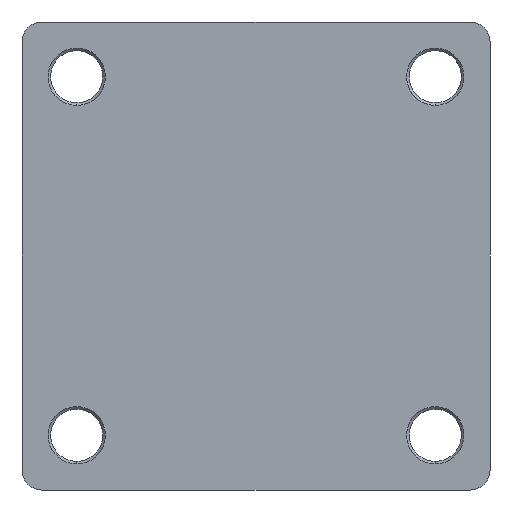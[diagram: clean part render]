
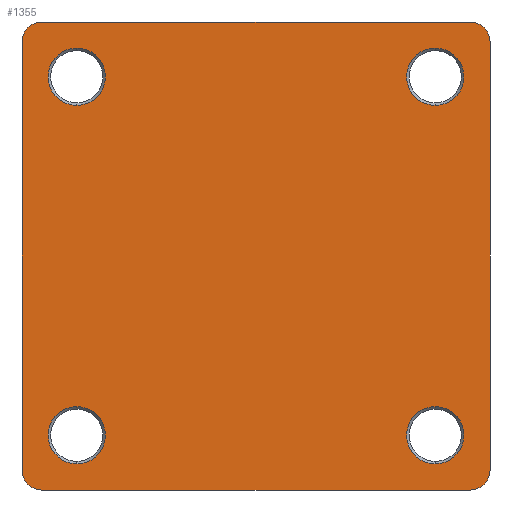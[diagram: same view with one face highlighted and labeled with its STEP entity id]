
A CAD part, left-side view. The second image highlights one B-rep face of the part: STEP entity #1355.
In plain terms, the highlighted planar face has unit normal (-1, 0, 0).
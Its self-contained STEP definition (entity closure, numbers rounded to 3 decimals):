
#10 = CIRCLE ( 'NONE', #1727, 5.75 ) ;
#28 = VERTEX_POINT ( 'NONE', #756 ) ;
#71 = DIRECTION ( 'NONE',  ( -1., 0., 0. ) ) ;
#88 = ORIENTED_EDGE ( 'NONE', *, *, #1482, .F. ) ;
#89 = EDGE_LOOP ( 'NONE', ( #833, #911 ) ) ;
#92 = CARTESIAN_POINT ( 'NONE',  ( -14., 47., 43. ) ) ;
#95 = AXIS2_PLACEMENT_3D ( 'NONE', #1349, #71, #219 ) ;
#97 = ORIENTED_EDGE ( 'NONE', *, *, #1323, .F. ) ;
#112 = DIRECTION ( 'NONE',  ( -1., 0., 0. ) ) ;
#121 = VECTOR ( 'NONE', #200, 1000. ) ;
#170 = EDGE_CURVE ( 'NONE', #953, #1668, #563, .T. ) ;
#185 = CARTESIAN_POINT ( 'NONE',  ( -14., -43., 43. ) ) ;
#200 = DIRECTION ( 'NONE',  ( 0., 1., 0. ) ) ;
#219 = DIRECTION ( 'NONE',  ( 0., 0., 1. ) ) ;
#230 = DIRECTION ( 'NONE',  ( -1., 0., 0. ) ) ;
#250 = ORIENTED_EDGE ( 'NONE', *, *, #724, .F. ) ;
#256 = ORIENTED_EDGE ( 'NONE', *, *, #1278, .F. ) ;
#259 = DIRECTION ( 'NONE',  ( 0., 0., 1. ) ) ;
#271 = AXIS2_PLACEMENT_3D ( 'NONE', #989, #112, #682 ) ;
#295 = CIRCLE ( 'NONE', #1678, 5.75 ) ;
#299 = CARTESIAN_POINT ( 'NONE',  ( -14., 43., -47. ) ) ;
#304 = CARTESIAN_POINT ( 'NONE',  ( -14., 43., 47. ) ) ;
#315 = CARTESIAN_POINT ( 'NONE',  ( -14., 43., 43. ) ) ;
#326 = CARTESIAN_POINT ( 'NONE',  ( -14., -43., -43. ) ) ;
#347 = AXIS2_PLACEMENT_3D ( 'NONE', #1764, #1024, #888 ) ;
#355 = VERTEX_POINT ( 'NONE', #1844 ) ;
#376 = CARTESIAN_POINT ( 'NONE',  ( -14., 36., 41.75 ) ) ;
#382 = DIRECTION ( 'NONE',  ( 0., 0., -1. ) ) ;
#385 = CIRCLE ( 'NONE', #95, 5.75 ) ;
#391 = CARTESIAN_POINT ( 'NONE',  ( -14., -47., 43. ) ) ;
#398 = CARTESIAN_POINT ( 'NONE',  ( -14., -43., 47. ) ) ;
#402 = CARTESIAN_POINT ( 'NONE',  ( -14., 47., -43. ) ) ;
#414 = DIRECTION ( 'NONE',  ( 0., 0., 1. ) ) ;
#418 = DIRECTION ( 'NONE',  ( 0., 0., 1. ) ) ;
#424 = CIRCLE ( 'NONE', #271, 5.75 ) ;
#460 = EDGE_CURVE ( 'NONE', #509, #642, #1396, .T. ) ;
#476 = LINE ( 'NONE', #1549, #743 ) ;
#482 = EDGE_CURVE ( 'NONE', #1668, #953, #884, .T. ) ;
#492 = EDGE_LOOP ( 'NONE', ( #806, #1152 ) ) ;
#503 = VERTEX_POINT ( 'NONE', #1122 ) ;
#509 = VERTEX_POINT ( 'NONE', #663 ) ;
#526 = DIRECTION ( 'NONE',  ( -1., 0., 0. ) ) ;
#527 = ORIENTED_EDGE ( 'NONE', *, *, #1734, .F. ) ;
#549 = DIRECTION ( 'NONE',  ( 0., 0., 1. ) ) ;
#562 = VERTEX_POINT ( 'NONE', #1541 ) ;
#563 = CIRCLE ( 'NONE', #1404, 5.75 ) ;
#572 = EDGE_LOOP ( 'NONE', ( #1230, #256 ) ) ;
#600 = VERTEX_POINT ( 'NONE', #398 ) ;
#604 = FACE_BOUND ( 'NONE', #492, .T. ) ;
#607 = EDGE_CURVE ( 'NONE', #1139, #562, #1202, .T. ) ;
#634 = CARTESIAN_POINT ( 'NONE',  ( -14., -36., -36. ) ) ;
#635 = CIRCLE ( 'NONE', #784, 5.75 ) ;
#642 = VERTEX_POINT ( 'NONE', #1378 ) ;
#648 = VECTOR ( 'NONE', #1458, 1000. ) ;
#649 = AXIS2_PLACEMENT_3D ( 'NONE', #1408, #689, #1127 ) ;
#657 = ORIENTED_EDGE ( 'NONE', *, *, #1091, .F. ) ;
#663 = CARTESIAN_POINT ( 'NONE',  ( -14., -47., 43. ) ) ;
#682 = DIRECTION ( 'NONE',  ( 0., 0., 1. ) ) ;
#689 = DIRECTION ( 'NONE',  ( 1., 0., 0. ) ) ;
#701 = DIRECTION ( 'NONE',  ( -1., 0., 0. ) ) ;
#707 = ORIENTED_EDGE ( 'NONE', *, *, #460, .F. ) ;
#711 = EDGE_CURVE ( 'NONE', #503, #1243, #1626, .T. ) ;
#720 = VERTEX_POINT ( 'NONE', #1511 ) ;
#724 = EDGE_CURVE ( 'NONE', #355, #996, #385, .T. ) ;
#743 = VECTOR ( 'NONE', #414, 1000. ) ;
#756 = CARTESIAN_POINT ( 'NONE',  ( -14., 36., -41.75 ) ) ;
#766 = DIRECTION ( 'NONE',  ( -1., 0., 0. ) ) ;
#784 = AXIS2_PLACEMENT_3D ( 'NONE', #1701, #975, #549 ) ;
#791 = CARTESIAN_POINT ( 'NONE',  ( -14., 36., -30.25 ) ) ;
#806 = ORIENTED_EDGE ( 'NONE', *, *, #1099, .F. ) ;
#833 = ORIENTED_EDGE ( 'NONE', *, *, #170, .F. ) ;
#834 = EDGE_CURVE ( 'NONE', #996, #355, #295, .T. ) ;
#855 = AXIS2_PLACEMENT_3D ( 'NONE', #315, #1321, #1597 ) ;
#884 = CIRCLE ( 'NONE', #1083, 5.75 ) ;
#888 = DIRECTION ( 'NONE',  ( 0., 0., -1. ) ) ;
#892 = CIRCLE ( 'NONE', #649, 4. ) ;
#893 = DIRECTION ( 'NONE',  ( 0., 0., -1. ) ) ;
#897 = ORIENTED_EDGE ( 'NONE', *, *, #834, .F. ) ;
#911 = ORIENTED_EDGE ( 'NONE', *, *, #482, .F. ) ;
#914 = CARTESIAN_POINT ( 'NONE',  ( -14., 36., 36. ) ) ;
#926 = DIRECTION ( 'NONE',  ( 0., 0., 1. ) ) ;
#948 = LINE ( 'NONE', #304, #648 ) ;
#951 = VERTEX_POINT ( 'NONE', #791 ) ;
#953 = VERTEX_POINT ( 'NONE', #1684 ) ;
#975 = DIRECTION ( 'NONE',  ( -1., 0., 0. ) ) ;
#989 = CARTESIAN_POINT ( 'NONE',  ( -14., 36., -36. ) ) ;
#996 = VERTEX_POINT ( 'NONE', #376 ) ;
#1022 = ORIENTED_EDGE ( 'NONE', *, *, #1299, .F. ) ;
#1024 = DIRECTION ( 'NONE',  ( 1., 0., 0. ) ) ;
#1031 = VERTEX_POINT ( 'NONE', #92 ) ;
#1039 = DIRECTION ( 'NONE',  ( 1., 0., 0. ) ) ;
#1083 = AXIS2_PLACEMENT_3D ( 'NONE', #1410, #526, #259 ) ;
#1085 = CIRCLE ( 'NONE', #347, 4. ) ;
#1091 = EDGE_CURVE ( 'NONE', #600, #509, #892, .T. ) ;
#1099 = EDGE_CURVE ( 'NONE', #951, #28, #424, .T. ) ;
#1104 = VERTEX_POINT ( 'NONE', #402 ) ;
#1112 = FACE_BOUND ( 'NONE', #1617, .T. ) ;
#1119 = EDGE_CURVE ( 'NONE', #28, #951, #635, .T. ) ;
#1121 = AXIS2_PLACEMENT_3D ( 'NONE', #1282, #701, #418 ) ;
#1122 = CARTESIAN_POINT ( 'NONE',  ( -14., -43., -47. ) ) ;
#1127 = DIRECTION ( 'NONE',  ( 0., 0., -1. ) ) ;
#1137 = CARTESIAN_POINT ( 'NONE',  ( -14., -36., 41.75 ) ) ;
#1139 = VERTEX_POINT ( 'NONE', #1137 ) ;
#1152 = ORIENTED_EDGE ( 'NONE', *, *, #1119, .F. ) ;
#1158 = CARTESIAN_POINT ( 'NONE',  ( -14., -36., -41.75 ) ) ;
#1189 = CARTESIAN_POINT ( 'NONE',  ( -14., -36., 36. ) ) ;
#1202 = CIRCLE ( 'NONE', #1121, 5.75 ) ;
#1205 = FACE_BOUND ( 'NONE', #572, .T. ) ;
#1224 = DIRECTION ( 'NONE',  ( 0., 0., 1. ) ) ;
#1230 = ORIENTED_EDGE ( 'NONE', *, *, #607, .F. ) ;
#1243 = VERTEX_POINT ( 'NONE', #299 ) ;
#1278 = EDGE_CURVE ( 'NONE', #562, #1139, #10, .T. ) ;
#1282 = CARTESIAN_POINT ( 'NONE',  ( -14., -36., 36. ) ) ;
#1299 = EDGE_CURVE ( 'NONE', #1031, #720, #1629, .T. ) ;
#1321 = DIRECTION ( 'NONE',  ( 1., 0., 0. ) ) ;
#1323 = EDGE_CURVE ( 'NONE', #720, #600, #948, .T. ) ;
#1349 = CARTESIAN_POINT ( 'NONE',  ( -14., 36., 36. ) ) ;
#1355 = ADVANCED_FACE ( 'NONE', ( #604, #1112, #1515, #1205, #1429 ), #1470, .F. ) ;
#1364 = AXIS2_PLACEMENT_3D ( 'NONE', #326, #1479, #893 ) ;
#1377 = EDGE_CURVE ( 'NONE', #642, #503, #1605, .T. ) ;
#1378 = CARTESIAN_POINT ( 'NONE',  ( -14., -47., -43. ) ) ;
#1396 = LINE ( 'NONE', #391, #1532 ) ;
#1404 = AXIS2_PLACEMENT_3D ( 'NONE', #634, #230, #926 ) ;
#1408 = CARTESIAN_POINT ( 'NONE',  ( -14., -43., 43. ) ) ;
#1410 = CARTESIAN_POINT ( 'NONE',  ( -14., -36., -36. ) ) ;
#1429 = FACE_OUTER_BOUND ( 'NONE', #1728, .T. ) ;
#1453 = DIRECTION ( 'NONE',  ( -1., 0., 0. ) ) ;
#1458 = DIRECTION ( 'NONE',  ( 0., -1., 0. ) ) ;
#1466 = AXIS2_PLACEMENT_3D ( 'NONE', #185, #1039, #1757 ) ;
#1470 = PLANE ( 'NONE',  #1466 ) ;
#1479 = DIRECTION ( 'NONE',  ( 1., 0., 0. ) ) ;
#1482 = EDGE_CURVE ( 'NONE', #1104, #1031, #476, .T. ) ;
#1511 = CARTESIAN_POINT ( 'NONE',  ( -14., 43., 47. ) ) ;
#1515 = FACE_BOUND ( 'NONE', #89, .T. ) ;
#1532 = VECTOR ( 'NONE', #382, 1000. ) ;
#1541 = CARTESIAN_POINT ( 'NONE',  ( -14., -36., 30.25 ) ) ;
#1549 = CARTESIAN_POINT ( 'NONE',  ( -14., 47., -43. ) ) ;
#1597 = DIRECTION ( 'NONE',  ( 0., 0., -1. ) ) ;
#1605 = CIRCLE ( 'NONE', #1364, 4. ) ;
#1617 = EDGE_LOOP ( 'NONE', ( #897, #250 ) ) ;
#1626 = LINE ( 'NONE', #1809, #121 ) ;
#1629 = CIRCLE ( 'NONE', #855, 4. ) ;
#1668 = VERTEX_POINT ( 'NONE', #1158 ) ;
#1678 = AXIS2_PLACEMENT_3D ( 'NONE', #914, #766, #1224 ) ;
#1684 = CARTESIAN_POINT ( 'NONE',  ( -14., -36., -30.25 ) ) ;
#1701 = CARTESIAN_POINT ( 'NONE',  ( -14., 36., -36. ) ) ;
#1727 = AXIS2_PLACEMENT_3D ( 'NONE', #1189, #1453, #1732 ) ;
#1728 = EDGE_LOOP ( 'NONE', ( #657, #97, #1022, #88, #527, #1741, #1856, #707 ) ) ;
#1732 = DIRECTION ( 'NONE',  ( 0., 0., 1. ) ) ;
#1734 = EDGE_CURVE ( 'NONE', #1243, #1104, #1085, .T. ) ;
#1741 = ORIENTED_EDGE ( 'NONE', *, *, #711, .F. ) ;
#1757 = DIRECTION ( 'NONE',  ( 0., 0., -1. ) ) ;
#1764 = CARTESIAN_POINT ( 'NONE',  ( -14., 43., -43. ) ) ;
#1809 = CARTESIAN_POINT ( 'NONE',  ( -14., -43., -47. ) ) ;
#1844 = CARTESIAN_POINT ( 'NONE',  ( -14., 36., 30.25 ) ) ;
#1856 = ORIENTED_EDGE ( 'NONE', *, *, #1377, .F. ) ;
